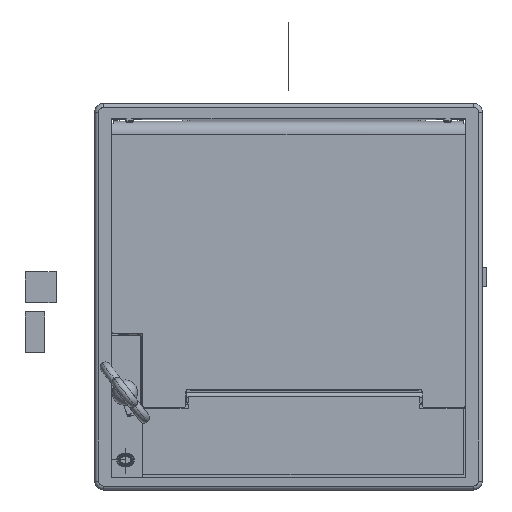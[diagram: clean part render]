
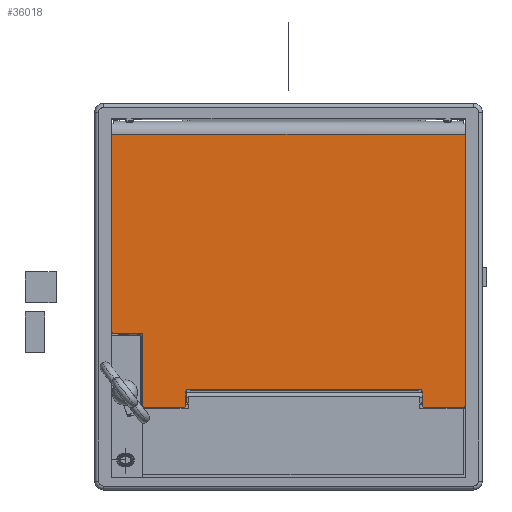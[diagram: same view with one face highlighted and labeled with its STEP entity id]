
A CAD part, top view. The second image highlights one B-rep face of the part: STEP entity #36018.
In plain terms, the highlighted planar face has unit normal (0, 0, 1).
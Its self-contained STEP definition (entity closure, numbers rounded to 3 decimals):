
#22884=CARTESIAN_POINT('',(-30.9,39.45,3.8));
#22885=CARTESIAN_POINT('',(-30.767,39.45,3.8));
#22886=CARTESIAN_POINT('',(-30.601,39.349,3.8));
#22887=CARTESIAN_POINT('',(-30.5,39.183,3.8));
#22888=CARTESIAN_POINT('',(-30.5,39.05,3.8));
#22890=DIRECTION('',(1.,0.,0.));
#22891=VECTOR('',#22890,59.801);
#22892=CARTESIAN_POINT('',(-29.901,34.879,
3.8));
#22893=LINE('',#22892,#22891);
#22894=CARTESIAN_POINT('',(29.901,34.879,3.8));
#22895=CARTESIAN_POINT('',(30.101,34.879,3.8));
#22896=CARTESIAN_POINT('',(30.349,35.032,3.8));
#22897=CARTESIAN_POINT('',(30.5,35.283,3.8));
#22898=CARTESIAN_POINT('',(30.5,35.483,3.8));
#22900=DIRECTION('',(0.,1.,0.));
#22901=VECTOR('',#22900,3.567);
#22902=CARTESIAN_POINT('',(30.5,35.483,3.8));
#22903=LINE('',#22902,#22901);
#22904=CARTESIAN_POINT('',(30.5,39.05,3.8));
#22905=CARTESIAN_POINT('',(30.5,39.183,3.8));
#22906=CARTESIAN_POINT('',(30.601,39.349,3.8));
#22907=CARTESIAN_POINT('',(30.767,39.45,3.8));
#22908=CARTESIAN_POINT('',(30.9,39.45,3.8));
#22910=CARTESIAN_POINT('',(41.3,39.45,3.8));
#22911=CARTESIAN_POINT('',(41.433,39.45,3.8));
#22912=CARTESIAN_POINT('',(41.599,39.349,3.8));
#22913=CARTESIAN_POINT('',(41.7,39.183,3.8));
#22914=CARTESIAN_POINT('',(41.7,39.05,3.8));
#22916=DIRECTION('',(0.,-1.,0.));
#22917=VECTOR('',#22916,18.651);
#22918=CARTESIAN_POINT('',(41.7,39.05,3.8));
#22919=LINE('',#22918,#22917);
#22920=CARTESIAN_POINT('',(49.1,20.399,3.8));
#22921=CARTESIAN_POINT('',(49.3,20.399,3.8));
#22922=CARTESIAN_POINT('',(49.549,20.247,3.8));
#22923=CARTESIAN_POINT('',(49.7,19.999,3.8));
#22924=CARTESIAN_POINT('',(49.7,19.799,3.8));
#22926=DIRECTION('',(0.,-1.,0.));
#22927=VECTOR('',#22926,50.892);
#22928=CARTESIAN_POINT('',(49.7,19.799,3.8));
#22929=LINE('',#22928,#22927);
#22930=DIRECTION('',(0.,1.,0.));
#22931=VECTOR('',#22930,70.141);
#22932=CARTESIAN_POINT('',(-41.7,-31.093,3.8));
#22933=LINE('',#22932,#22931);
#22934=CARTESIAN_POINT('',(-41.7,39.05,3.8));
#22935=CARTESIAN_POINT('',(-41.7,39.183,3.8));
#22936=CARTESIAN_POINT('',(-41.599,39.349,3.8));
#22937=CARTESIAN_POINT('',(-41.433,39.45,3.8));
#22938=CARTESIAN_POINT('',(-41.3,39.45,3.8));
#22940=DIRECTION('',(1.,0.,0.));
#22941=VECTOR('',#22940,10.4);
#22942=CARTESIAN_POINT('',(-41.3,39.45,3.8));
#22943=LINE('',#22942,#22941);
#23497=DIRECTION('',(1.,0.,0.));
#23498=VECTOR('',#23497,91.4);
#23499=CARTESIAN_POINT('',(-41.7,-31.093,3.8));
#23500=LINE('',#23499,#23498);
#23585=DIRECTION('',(-1.,0.,0.));
#23586=VECTOR('',#23585,7.4);
#23587=CARTESIAN_POINT('',(49.1,20.399,3.8));
#23588=LINE('',#23587,#23586);
#31055=DIRECTION('',(-1.,0.,0.));
#31056=VECTOR('',#31055,10.4);
#31057=CARTESIAN_POINT('',(41.3,39.45,3.8));
#31058=LINE('',#31057,#31056);
#31359=CARTESIAN_POINT('',(-29.901,34.879,3.8));
#31360=CARTESIAN_POINT('',(-30.101,34.879,3.8));
#31361=CARTESIAN_POINT('',(-30.349,35.032,3.8));
#31362=CARTESIAN_POINT('',(-30.5,35.283,3.8));
#31363=CARTESIAN_POINT('',(-30.5,35.483,3.8));
#31398=DIRECTION('',(0.,1.,0.));
#31399=VECTOR('',#31398,3.567);
#31400=CARTESIAN_POINT('',(-30.5,35.483,3.8));
#31401=LINE('',#31400,#31399);
#33928=CARTESIAN_POINT('',(41.7,20.399,3.8));
#33929=VERTEX_POINT('',#33928);
#33930=CARTESIAN_POINT('',(41.7,39.05,3.8));
#33931=VERTEX_POINT('',#33930);
#33938=VERTEX_POINT('',#22910);
#33939=VERTEX_POINT('',#22884);
#33940=VERTEX_POINT('',#22888);
#33941=CARTESIAN_POINT('',(-30.5,35.483,3.8));
#33942=VERTEX_POINT('',#33941);
#33943=VERTEX_POINT('',#31359);
#33944=CARTESIAN_POINT('',(29.901,34.879,3.8));
#33945=VERTEX_POINT('',#33944);
#33946=VERTEX_POINT('',#22898);
#33947=CARTESIAN_POINT('',(30.5,39.05,3.8));
#33948=VERTEX_POINT('',#33947);
#33949=VERTEX_POINT('',#22908);
#33950=CARTESIAN_POINT('',(49.1,20.399,3.8));
#33951=VERTEX_POINT('',#33950);
#33952=VERTEX_POINT('',#22924);
#33953=CARTESIAN_POINT('',(49.7,-31.093,3.8));
#33954=VERTEX_POINT('',#33953);
#33955=CARTESIAN_POINT('',(-41.7,-31.093,3.8));
#33956=VERTEX_POINT('',#33955);
#33957=CARTESIAN_POINT('',(-41.7,39.048,3.8));
#33958=VERTEX_POINT('',#33957);
#33959=VERTEX_POINT('',#22938);
#35979=CARTESIAN_POINT('',(0.,-34.336,3.8));
#35980=DIRECTION('',(0.,0.,1.));
#35981=DIRECTION('',(0.,1.,0.));
#35982=AXIS2_PLACEMENT_3D('',#35979,#35980,#35981);
#35983=PLANE('',#35982);
#35985=ORIENTED_EDGE('',*,*,#35984,.T.);
#35987=ORIENTED_EDGE('',*,*,#35986,.F.);
#35989=ORIENTED_EDGE('',*,*,#35988,.F.);
#35991=ORIENTED_EDGE('',*,*,#35990,.T.);
#35993=ORIENTED_EDGE('',*,*,#35992,.T.);
#35995=ORIENTED_EDGE('',*,*,#35994,.T.);
#35997=ORIENTED_EDGE('',*,*,#35996,.T.);
#35999=ORIENTED_EDGE('',*,*,#35998,.F.);
#36000=ORIENTED_EDGE('',*,*,#35972,.T.);
#36001=ORIENTED_EDGE('',*,*,#35930,.T.);
#36003=ORIENTED_EDGE('',*,*,#36002,.F.);
#36005=ORIENTED_EDGE('',*,*,#36004,.T.);
#36007=ORIENTED_EDGE('',*,*,#36006,.T.);
#36009=ORIENTED_EDGE('',*,*,#36008,.F.);
#36011=ORIENTED_EDGE('',*,*,#36010,.T.);
#36013=ORIENTED_EDGE('',*,*,#36012,.T.);
#36015=ORIENTED_EDGE('',*,*,#36014,.T.);
#36016=EDGE_LOOP('',(#35985,#35987,#35989,#35991,#35993,#35995,#35997,#35999,
#36000,#36001,#36003,#36005,#36007,#36009,#36011,#36013,#36015));
#36017=FACE_OUTER_BOUND('',#36016,.F.);
#22889=B_SPLINE_CURVE_WITH_KNOTS('',3,(#22884,#22885,#22886,#22887,#22888),
.UNSPECIFIED.,.F.,.F.,(4,1,4),(0.,0.5,1.),.UNSPECIFIED.);
#22899=B_SPLINE_CURVE_WITH_KNOTS('',3,(#22894,#22895,#22896,#22897,#22898),
.UNSPECIFIED.,.F.,.F.,(4,1,4),(0.,0.5,1.),.UNSPECIFIED.);
#22909=B_SPLINE_CURVE_WITH_KNOTS('',3,(#22904,#22905,#22906,#22907,#22908),
.UNSPECIFIED.,.F.,.F.,(4,1,4),(0.,0.5,1.),.UNSPECIFIED.);
#22915=B_SPLINE_CURVE_WITH_KNOTS('',3,(#22910,#22911,#22912,#22913,#22914),
.UNSPECIFIED.,.F.,.F.,(4,1,4),(0.,0.5,1.),.UNSPECIFIED.);
#22925=B_SPLINE_CURVE_WITH_KNOTS('',3,(#22920,#22921,#22922,#22923,#22924),
.UNSPECIFIED.,.F.,.F.,(4,1,4),(0.,0.5,1.),.UNSPECIFIED.);
#22939=B_SPLINE_CURVE_WITH_KNOTS('',3,(#22934,#22935,#22936,#22937,#22938),
.UNSPECIFIED.,.F.,.F.,(4,1,4),(0.,0.5,1.),.UNSPECIFIED.);
#31364=B_SPLINE_CURVE_WITH_KNOTS('',3,(#31359,#31360,#31361,#31362,#31363),
.UNSPECIFIED.,.F.,.F.,(4,1,4),(0.,0.5,1.),.UNSPECIFIED.);
#35930=EDGE_CURVE('',#33931,#33929,#22919,.T.);
#35972=EDGE_CURVE('',#33938,#33931,#22915,.T.);
#35984=EDGE_CURVE('',#33939,#33940,#22889,.T.);
#35986=EDGE_CURVE('',#33942,#33940,#31401,.T.);
#35988=EDGE_CURVE('',#33943,#33942,#31364,.T.);
#35990=EDGE_CURVE('',#33943,#33945,#22893,.T.);
#35992=EDGE_CURVE('',#33945,#33946,#22899,.T.);
#35994=EDGE_CURVE('',#33946,#33948,#22903,.T.);
#35996=EDGE_CURVE('',#33948,#33949,#22909,.T.);
#35998=EDGE_CURVE('',#33938,#33949,#31058,.T.);
#36002=EDGE_CURVE('',#33951,#33929,#23588,.T.);
#36004=EDGE_CURVE('',#33951,#33952,#22925,.T.);
#36006=EDGE_CURVE('',#33952,#33954,#22929,.T.);
#36008=EDGE_CURVE('',#33956,#33954,#23500,.T.);
#36010=EDGE_CURVE('',#33956,#33958,#22933,.T.);
#36012=EDGE_CURVE('',#33958,#33959,#22939,.T.);
#36014=EDGE_CURVE('',#33959,#33939,#22943,.T.);
#36018=ADVANCED_FACE('',(#36017),#35983,.T.);
